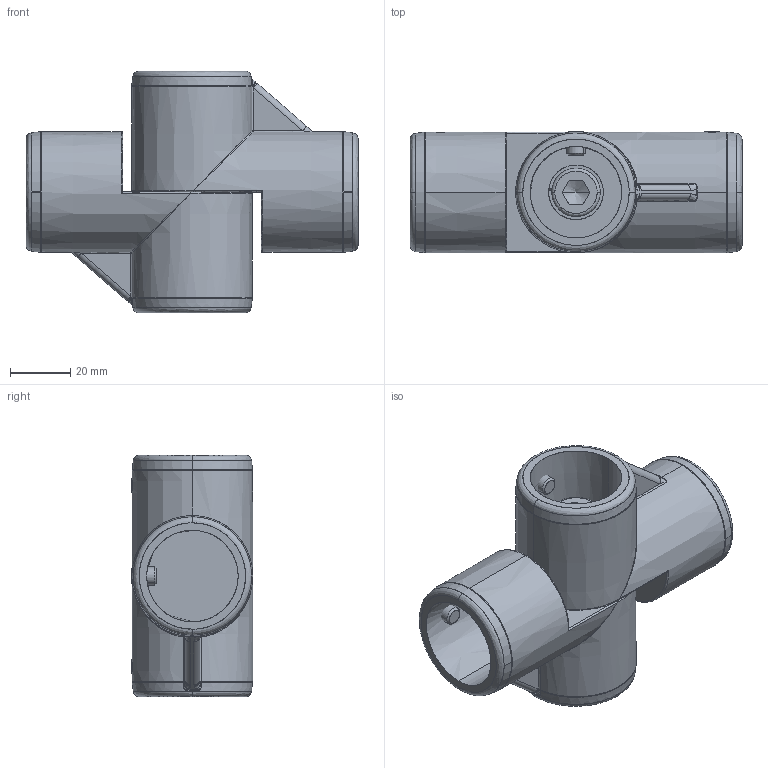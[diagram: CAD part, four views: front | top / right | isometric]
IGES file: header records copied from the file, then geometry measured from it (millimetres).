
Start section: SolidWorks IGES file using analytic representation for surfaces
Global section: file name: C:\Users\Gerard\OneDrive - Tecnodin, S.L\Escritorio\30 mm Verbinder im step. Format\31000410018.IGS; native system: SolidWorks 2016; preprocessor: SolidWorks 2016; author: Gerard; date: 240902.114236; units: millimetre
Bounding box: 110 x 40.26 x 80 mm (x, y, z)
Surface area: 42694.5 mm2 (no closed solid volume)
Topology: 0 solids, 0 shells, 253 faces, 3498 edges, 3480 vertices
Faces by surface type: bspline 143, revolution 110
